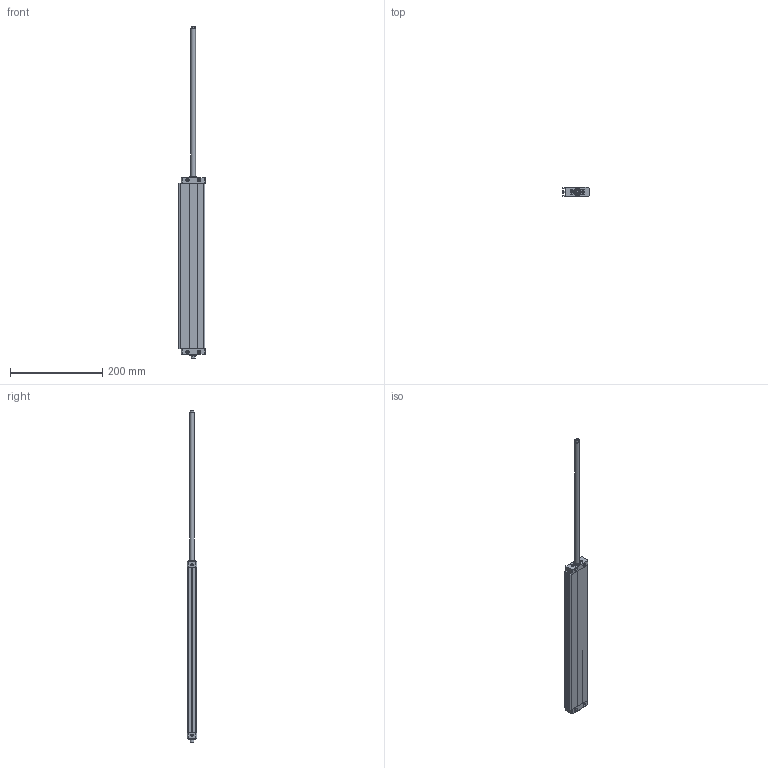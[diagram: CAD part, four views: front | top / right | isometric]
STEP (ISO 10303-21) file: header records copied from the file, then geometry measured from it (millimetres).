
FILE_DESCRIPTION((''),'2;1');
FILE_NAME('I:\Area Tecnica\Disegni\VARIE-3D\Componenti\1370 - CPO\1370_##_0000_03\1370_25_0320_03-01.iam.step','2010-12-16T10:54:03',(''),(''),'Autodesk Inventor 2011','Autodesk Inventor 2011','');
FILE_SCHEMA(('AUTOMOTIVE_DESIGN { 1 0 10303 214 1 1 1 1 }'));
Length unit declared in the file: millimetre
Products named in the file (5): 1370_25_0320_03-01; 1370_05_25_0000; 1370_06_25_0320; 1370_08_25_0000; 1370_3_25_0320
Assembly tree (4 placements, depth 2):
  1370_25_0320_03-01
    1370_05_25_0000
    1370_06_25_0320
    1370_08_25_0000
    1370_3_25_0320
Bounding box: 56.25 x 20 x 718 mm (x, y, z)
Volume: 261211.7 mm3; surface area: 133844.7 mm2
Topology: 4 solids, 4 shells, 158 faces, 378 edges, 238 vertices
Faces by surface type: plane 90, cylinder 48, cone 20
Full cylindrical faces by diameter (mm): 4.2 x22, 5.2 x2, 8 x8, 9.5 x2, 10 x4, 16 x2
Entity records: 4480 total; most frequent: DIRECTION 750, CARTESIAN_POINT 695, ORIENTED_EDGE 608, EDGE_CURVE 304, AXIS2_PLACEMENT_3D 279, EDGE_LOOP 250, VERTEX_POINT 224, VECTOR 192
